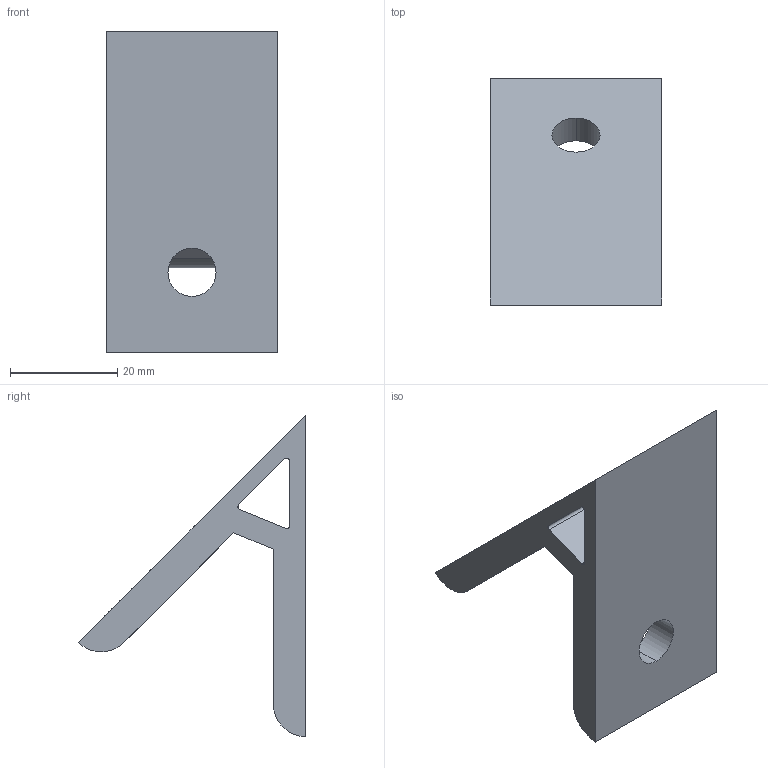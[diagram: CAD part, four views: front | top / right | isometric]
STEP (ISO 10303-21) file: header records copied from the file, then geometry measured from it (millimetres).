
FILE_DESCRIPTION (( 'STEP AP203' ), '1' );
FILE_NAME ('6140.STEP', '2016-06-27T14:12:01', ( 'RosInstal-MKM' ), ( '' ), 'SwSTEP 2.0', 'SolidWorks 2014', '' );
FILE_SCHEMA (( 'CONFIG_CONTROL_DESIGN' ));
Length unit declared in the file: millimetre
Products named in the file (1): 6140
Bounding box: 32 x 42.43 x 60 mm (x, y, z)
Volume: 17994.4 mm3; surface area: 8993.6 mm2
Topology: 1 solids, 1 shells, 20 faces, 54 edges, 36 vertices
Faces by surface type: cylinder 10, plane 10
Entity records: 727 total; most frequent: DIRECTION 116, CARTESIAN_POINT 111, ORIENTED_EDGE 108, EDGE_CURVE 54, AXIS2_PLACEMENT_3D 41, VERTEX_POINT 36, VECTOR 34, LINE 34
